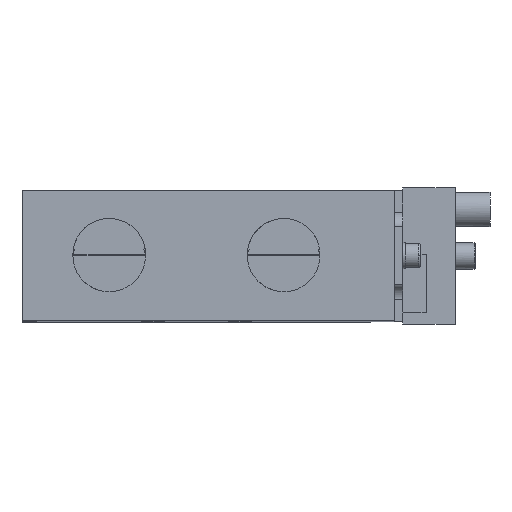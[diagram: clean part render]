
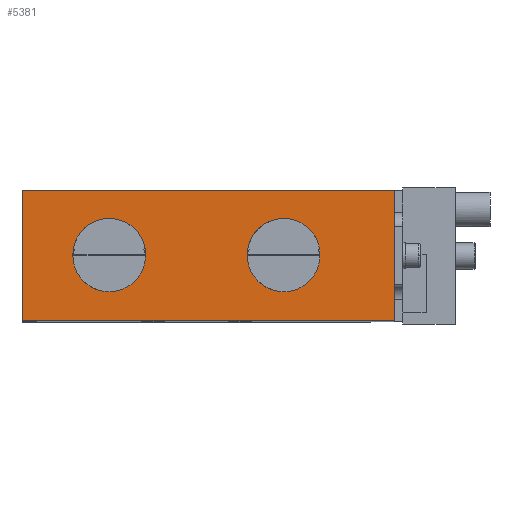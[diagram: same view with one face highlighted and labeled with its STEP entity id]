
A CAD part, top view. The second image highlights one B-rep face of the part: STEP entity #5381.
In plain terms, the highlighted free-form (B-spline) face has degree [1, 1] with [2, 2] control points.
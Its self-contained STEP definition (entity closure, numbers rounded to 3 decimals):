
#4533=CARTESIAN_POINT('Vertex',(72.5,0.,0.)) ;
#4548=CARTESIAN_POINT('Vertex',(47.5,0.,0.)) ;
#4552=CARTESIAN_POINT('Control Point',(47.5,0.,0.)) ;
#4553=CARTESIAN_POINT('Control Point',(47.5,-12.5,0.)) ;
#4554=CARTESIAN_POINT('Control Point',(60.,-12.5,0.)) ;
#4555=CARTESIAN_POINT('Control Point',(72.5,-12.5,0.)) ;
#4556=CARTESIAN_POINT('Control Point',(72.5,0.,0.)) ;
#4581=CARTESIAN_POINT('Vertex',(12.5,0.,0.)) ;
#4596=CARTESIAN_POINT('Vertex',(-12.5,0.,0.)) ;
#4600=CARTESIAN_POINT('Control Point',(-12.5,0.,0.)) ;
#4601=CARTESIAN_POINT('Control Point',(-12.5,-12.5,0.)) ;
#4602=CARTESIAN_POINT('Control Point',(0.,-12.5,0.)) ;
#4603=CARTESIAN_POINT('Control Point',(12.5,-12.5,0.)) ;
#4604=CARTESIAN_POINT('Control Point',(12.5,0.,0.)) ;
#4801=CARTESIAN_POINT('Control Point',(12.5,0.,0.)) ;
#4802=CARTESIAN_POINT('Control Point',(12.5,12.5,0.)) ;
#4803=CARTESIAN_POINT('Control Point',(0.,12.5,0.)) ;
#4804=CARTESIAN_POINT('Control Point',(-12.5,12.5,0.)) ;
#4805=CARTESIAN_POINT('Control Point',(-12.5,0.,0.)) ;
#5057=CARTESIAN_POINT('Control Point',(72.5,0.,0.)) ;
#5058=CARTESIAN_POINT('Control Point',(72.5,12.5,0.)) ;
#5059=CARTESIAN_POINT('Control Point',(60.,12.5,0.)) ;
#5060=CARTESIAN_POINT('Control Point',(47.5,12.5,0.)) ;
#5061=CARTESIAN_POINT('Control Point',(47.5,0.,0.)) ;
#5339=CARTESIAN_POINT('Control Point',(-30.,-22.5,0.)) ;
#5340=CARTESIAN_POINT('Control Point',(-30.,22.5,0.)) ;
#5341=CARTESIAN_POINT('Control Point',(98.,-22.5,0.)) ;
#5342=CARTESIAN_POINT('Control Point',(98.,22.5,0.)) ;
#5344=CARTESIAN_POINT('Control Point',(-30.,-22.5,0.)) ;
#5345=CARTESIAN_POINT('Control Point',(-30.,22.5,0.)) ;
#5346=CARTESIAN_POINT('Vertex',(-30.,-22.5,0.)) ;
#5348=CARTESIAN_POINT('Vertex',(-30.,22.5,0.)) ;
#5352=CARTESIAN_POINT('Control Point',(-30.,-22.5,0.)) ;
#5353=CARTESIAN_POINT('Control Point',(98.,-22.5,0.)) ;
#5354=CARTESIAN_POINT('Vertex',(98.,-22.5,0.)) ;
#5358=CARTESIAN_POINT('Control Point',(98.,-22.5,0.)) ;
#5359=CARTESIAN_POINT('Control Point',(98.,22.5,0.)) ;
#5360=CARTESIAN_POINT('Vertex',(98.,22.5,0.)) ;
#5364=CARTESIAN_POINT('Control Point',(-30.,22.5,0.)) ;
#5365=CARTESIAN_POINT('Control Point',(98.,22.5,0.)) ;
#5368=ORIENTED_EDGE('',*,*,#5350,.F.) ;
#5369=ORIENTED_EDGE('',*,*,#5356,.T.) ;
#5370=ORIENTED_EDGE('',*,*,#5362,.T.) ;
#5371=ORIENTED_EDGE('',*,*,#5366,.F.) ;
#5374=ORIENTED_EDGE('',*,*,#4605,.F.) ;
#5375=ORIENTED_EDGE('',*,*,#4806,.F.) ;
#5378=ORIENTED_EDGE('',*,*,#4557,.F.) ;
#5379=ORIENTED_EDGE('',*,*,#5062,.F.) ;
#5376=FACE_BOUND('',#5373,.T.) ;
#5380=FACE_BOUND('',#5377,.T.) ;
#5381=ADVANCED_FACE('SZKD_63_5_BR3_40_A13_T12_TUENKERS',(#5372,#5376,#5380),#5338,.T.) ;
#5343=B_SPLINE_CURVE_WITH_KNOTS('',1,(#5344,#5345),.UNSPECIFIED.,.F.,.U.,(2,2),(0.,1.),.UNSPECIFIED.) ;
#5351=B_SPLINE_CURVE_WITH_KNOTS('',1,(#5352,#5353),.UNSPECIFIED.,.F.,.U.,(2,2),(0.,1.),.UNSPECIFIED.) ;
#5357=B_SPLINE_CURVE_WITH_KNOTS('',1,(#5358,#5359),.UNSPECIFIED.,.F.,.U.,(2,2),(0.,1.),.UNSPECIFIED.) ;
#5363=B_SPLINE_CURVE_WITH_KNOTS('',1,(#5364,#5365),.UNSPECIFIED.,.F.,.U.,(2,2),(0.,1.),.UNSPECIFIED.) ;
#5338=B_SPLINE_SURFACE_WITH_KNOTS('',1,1,((#5339,#5340),(#5341,#5342)),.UNSPECIFIED.,.F.,.F.,.U.,(2,2),(2,2),(0.,12.8),(0.,4.5),.UNSPECIFIED.) ;
#4557=EDGE_CURVE('',#4549,#4534,#4551,.T.) ;
#4605=EDGE_CURVE('',#4597,#4582,#4599,.T.) ;
#4806=EDGE_CURVE('',#4582,#4597,#4800,.T.) ;
#5062=EDGE_CURVE('',#4534,#4549,#5056,.T.) ;
#5350=EDGE_CURVE('',#5347,#5349,#5343,.T.) ;
#5356=EDGE_CURVE('',#5347,#5355,#5351,.T.) ;
#5362=EDGE_CURVE('',#5355,#5361,#5357,.T.) ;
#5366=EDGE_CURVE('',#5349,#5361,#5363,.T.) ;
#5367=EDGE_LOOP('',(#5368,#5369,#5370,#5371)) ;
#5373=EDGE_LOOP('',(#5374,#5375)) ;
#5377=EDGE_LOOP('',(#5378,#5379)) ;
#5372=FACE_OUTER_BOUND('',#5367,.T.) ;
#4534=VERTEX_POINT('',#4533) ;
#4549=VERTEX_POINT('',#4548) ;
#4582=VERTEX_POINT('',#4581) ;
#4597=VERTEX_POINT('',#4596) ;
#5347=VERTEX_POINT('',#5346) ;
#5349=VERTEX_POINT('',#5348) ;
#5355=VERTEX_POINT('',#5354) ;
#5361=VERTEX_POINT('',#5360) ;
#4551=(BOUNDED_CURVE()B_SPLINE_CURVE(2,(#4552,#4553,#4554,#4555,#4556),.UNSPECIFIED.,.F.,.U.)B_SPLINE_CURVE_WITH_KNOTS((3,2,3),(-3.142,-1.571,0.),.UNSPECIFIED.)CURVE()GEOMETRIC_REPRESENTATION_ITEM()RATIONAL_B_SPLINE_CURVE((1.,0.707,1.,0.707,1.))REPRESENTATION_ITEM('')) ;
#4599=(BOUNDED_CURVE()B_SPLINE_CURVE(2,(#4600,#4601,#4602,#4603,#4604),.UNSPECIFIED.,.F.,.U.)B_SPLINE_CURVE_WITH_KNOTS((3,2,3),(0.,1.571,3.142),.UNSPECIFIED.)CURVE()GEOMETRIC_REPRESENTATION_ITEM()RATIONAL_B_SPLINE_CURVE((1.,0.707,1.,0.707,1.))REPRESENTATION_ITEM('')) ;
#4800=(BOUNDED_CURVE()B_SPLINE_CURVE(2,(#4801,#4802,#4803,#4804,#4805),.UNSPECIFIED.,.F.,.U.)B_SPLINE_CURVE_WITH_KNOTS((3,2,3),(3.142,4.712,6.283),.UNSPECIFIED.)CURVE()GEOMETRIC_REPRESENTATION_ITEM()RATIONAL_B_SPLINE_CURVE((1.,0.707,1.,0.707,1.))REPRESENTATION_ITEM('')) ;
#5056=(BOUNDED_CURVE()B_SPLINE_CURVE(2,(#5057,#5058,#5059,#5060,#5061),.UNSPECIFIED.,.F.,.U.)B_SPLINE_CURVE_WITH_KNOTS((3,2,3),(0.,1.571,3.142),.UNSPECIFIED.)CURVE()GEOMETRIC_REPRESENTATION_ITEM()RATIONAL_B_SPLINE_CURVE((1.,0.707,1.,0.707,1.))REPRESENTATION_ITEM('')) ;
